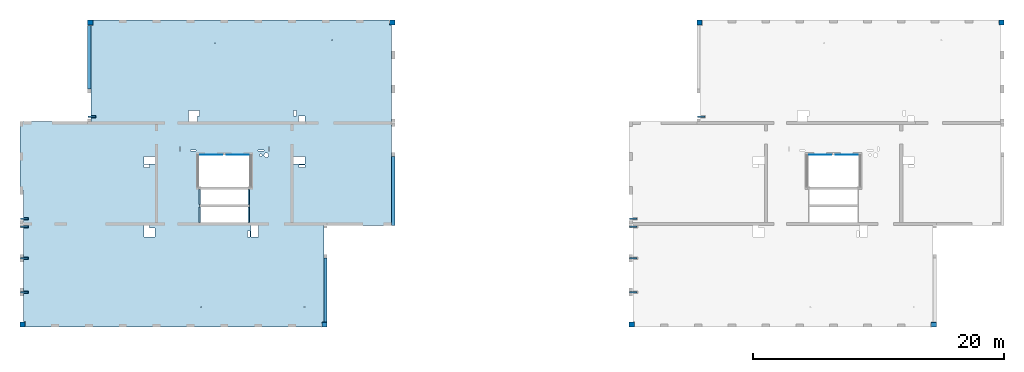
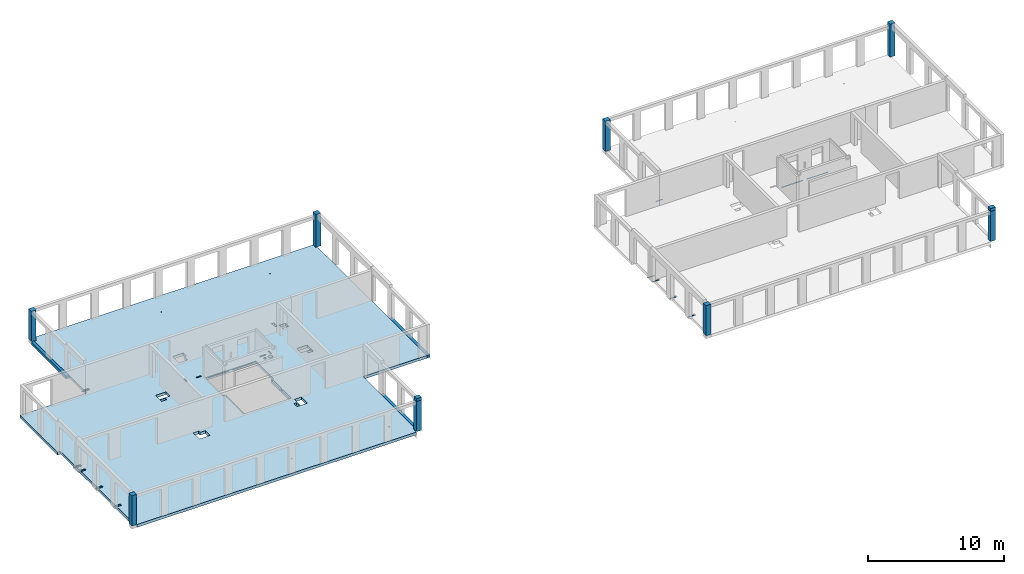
# One storey, part 1 of 11: 14 beams, 10 columns, 4 slabs, 34 openings.
"""IFC2X3 building model written with IfcOpenShell, lengths in millimetres."""

from ifc_helpers import new_model, entity, si_unit, converted_unit, derived_unit, direction, frame, frame_2d, origin, origin_2d_with_axis, place, context, subcontext, project, spatial, polyline, rectangle, circle, outline, extrude, source, transform, mapped, material, layer, layer_set, layer_usage, type_object, type_shapes, element, save


model = new_model("IFC2X3")

# Units and contexts
model_context = context("Model", 3, precision=0.01, world=origin(), true_north=direction((6.12303176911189e-17, 1.0)))
body_context = subcontext(model_context, "Body", "Model", "MODEL_VIEW")
ifc_project = project(units=[si_unit("LENGTHUNIT", "METRE", prefix="MILLI"), si_unit("AREAUNIT", "SQUARE_METRE"), si_unit("VOLUMEUNIT", "CUBIC_METRE"), converted_unit("PLANEANGLEUNIT", "DEGREE", entity("IfcRatioMeasure", 0.0174532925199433), si_unit("PLANEANGLEUNIT", "RADIAN"), dimensions=[0, 0, 0, 0, 0, 0, 0]), si_unit("MASSUNIT", "GRAM", prefix="KILO"), derived_unit("MASSDENSITYUNIT", [(si_unit("MASSUNIT", "GRAM", prefix="KILO"), 1), (si_unit("LENGTHUNIT", "METRE"), -3)]), si_unit("TIMEUNIT", "SECOND"), si_unit("FREQUENCYUNIT", "HERTZ"), si_unit("THERMODYNAMICTEMPERATUREUNIT", "DEGREE_CELSIUS"), derived_unit("THERMALTRANSMITTANCEUNIT", [(si_unit("MASSUNIT", "GRAM", prefix="KILO"), 1), (si_unit("THERMODYNAMICTEMPERATUREUNIT", "KELVIN"), -1), (si_unit("TIMEUNIT", "SECOND"), -3)]), derived_unit("VOLUMETRICFLOWRATEUNIT", [(si_unit("LENGTHUNIT", "METRE"), 3), (si_unit("TIMEUNIT", "SECOND"), -1)]), si_unit("ELECTRICCURRENTUNIT", "AMPERE"), si_unit("ELECTRICVOLTAGEUNIT", "VOLT"), si_unit("POWERUNIT", "WATT"), si_unit("FORCEUNIT", "NEWTON", prefix="KILO"), si_unit("ILLUMINANCEUNIT", "LUX"), si_unit("LUMINOUSFLUXUNIT", "LUMEN"), si_unit("LUMINOUSINTENSITYUNIT", "CANDELA"), derived_unit("USERDEFINED", [(si_unit("MASSUNIT", "GRAM", prefix="KILO"), -1), (si_unit("LENGTHUNIT", "METRE"), -2), (si_unit("TIMEUNIT", "SECOND"), 3), (si_unit("LUMINOUSFLUXUNIT", "LUMEN"), 1)]), derived_unit("LINEARVELOCITYUNIT", [(si_unit("LENGTHUNIT", "METRE"), 1), (si_unit("TIMEUNIT", "SECOND"), -1)]), si_unit("PRESSUREUNIT", "PASCAL"), derived_unit("USERDEFINED", [(si_unit("LENGTHUNIT", "METRE"), -2), (si_unit("MASSUNIT", "GRAM", prefix="KILO"), 1), (si_unit("TIMEUNIT", "SECOND"), -2)])], contexts=[model_context])

# Site, building, storey
site_placement = place(None, origin())
site = spatial("IfcSite", under=ifc_project, at=site_placement, Name="Default", CompositionType="ELEMENT")
building_placement = place(site_placement, origin())
building = spatial("IfcBuilding", under=site, at=building_placement, Name="niet gebruiken", CompositionType="ELEMENT")
storey_placement = place(building_placement, frame((0.0, 0.0, 57150.0)))
storey = spatial("IfcBuildingStorey", under=building, at=storey_placement, Name="19 negentiende verdieping", CompositionType="ELEMENT", Elevation=57150.0)

# Columns
ifc_material_1 = material(Name="NLRS_f2_beton prefab")
column_type_1 = type_object("IfcColumnType", Name="410x410", PredefinedType="COLUMN", material=ifc_material_1)
shared_shape_1 = source(origin(), body_context, "Body", "SweptSolid", [
    extrude(rectangle(XDim=410.0, YDim=410.0, at=origin_2d_with_axis()), frame((0.0, 0.0, 57080.0), z_axis=(0.0, 0.0, 1.0), x_axis=(0.0, -1.0, 0.0)), (0.0, 0.0, 1.0), 2700.0),
])
type_shapes(column_type_1, [shared_shape_1])
for number, where, name in (
    (1, (99795.0, 28961.0, -57150.0), "NLRS_28. kolom vierkant_gen:410x410"),
    (2, (81105.0, 53051.0, -57150.0), "NLRS_28. kolom vierkant_gen:410x410"),
    (3, (51195.0, 28961.0, -57150.0), "NLRS_28. kolom vierkant_gen:410x410"),
    (4, (32505.0, 53051.0, -57150.0), "NLRS_28. kolom vierkant_gen:410x410"),
):
    element("IfcColumn", number, at=place(storey_placement, frame(where)), inside=storey, type_object=column_type_1, material=ifc_material_1, Name=name, ObjectType="410x410", context=body_context, shape_type="MappedRepresentation", body=[
        mapped(shared_shape_1, transform((0.0, 0.0, 0.0), scale=1.0)),
    ])
column_type_2 = type_object("IfcColumnType", Name="410x410", PredefinedType="COLUMN", material=ifc_material_1)
shared_shape_2 = source(origin(), body_context, "Body", "SweptSolid", [
    extrude(rectangle(XDim=410.0, YDim=410.0, at=origin_2d_with_axis()), frame((0.0, 0.0, 57080.0), z_axis=(0.0, 0.0, 1.0), x_axis=(0.0, -1.0, 0.0)), (0.0, 0.0, 1.0), 2700.0),
])
type_shapes(column_type_2, [shared_shape_2])
for number, where, z_axis, x_axis, name in (
    (5, (75705.0, 28961.0, -57150.0), (0.0, 0.0, 1.0), (0.0, 1.0, 0.0), "NLRS_28. kolom vierkant_gen1:410x410"),
    (6, (27105.0, 28961.0, -57150.0), (0.0, 0.0, 1.0), (0.0, 1.0, 0.0), "NLRS_28. kolom vierkant_gen1:410x410"),
):
    element("IfcColumn", number, at=place(storey_placement, frame(where, z_axis=z_axis, x_axis=x_axis)), inside=storey, type_object=column_type_2, material=ifc_material_1, Name=name, ObjectType="410x410", context=body_context, shape_type="MappedRepresentation", body=[
        mapped(shared_shape_2, transform((0.0, 0.0, 0.0), scale=1.0)),
    ])
column_type_3 = type_object("IfcColumnType", Name="410x410", PredefinedType="COLUMN", material=ifc_material_1)
shared_shape_3 = source(origin(), body_context, "Body", "SweptSolid", [
    extrude(rectangle(XDim=410.000000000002, YDim=409.999999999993, at=origin_2d_with_axis()), frame((105195.0, 53051.0, 57080.0), z_axis=(0.0, 0.0, 1.0), x_axis=(0.0, -1.0, 0.0)), (0.0, 0.0, 1.0), 2950.00000000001),
])
type_shapes(column_type_3, [shared_shape_3])
column_1_placement = place(storey_placement, frame((0.0, 0.0, -57150.0)))
element("IfcColumn", 7, at=column_1_placement, inside=storey, type_object=column_type_3, material=ifc_material_1, Name="NLRS_28. kolom vierkant_gen:410x410", ObjectType="410x410", context=body_context, shape_type="MappedRepresentation", body=[
    mapped(shared_shape_3, transform((0.0, 0.0, 0.0), scale=1.0)),
])
column_type_4 = type_object("IfcColumnType", Name="410x410", PredefinedType="COLUMN", material=ifc_material_1)
shared_shape_4 = source(origin(), body_context, "Body", "SweptSolid", [
    extrude(rectangle(XDim=410.000000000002, YDim=410.000000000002, at=origin_2d_with_axis()), frame((56595.0, 53051.0, 57080.0), z_axis=(0.0, 0.0, 1.0), x_axis=(0.0, -1.0, 0.0)), (0.0, 0.0, 1.0), 2950.00000000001),
])
type_shapes(column_type_4, [shared_shape_4])
column_2_placement = place(storey_placement, frame((0.0, 0.0, -57150.0)))
element("IfcColumn", 8, at=column_2_placement, inside=storey, type_object=column_type_4, material=ifc_material_1, Name="NLRS_28. kolom vierkant_gen:410x410", ObjectType="410x410", context=body_context, shape_type="MappedRepresentation", body=[
    mapped(shared_shape_4, transform((0.0, 0.0, 0.0), scale=1.0)),
])
column_type_5 = type_object("IfcColumnType", Name="410x360", PredefinedType="COLUMN", material=ifc_material_1)
shared_shape_5 = source(origin(), body_context, "Body", "SweptSolid", [
    extrude(rectangle(XDim=360.0, YDim=409.999999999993, at=origin_2d_with_axis()), frame((99795.0, 28936.0, 59780.0), z_axis=(0.0, 0.0, 1.0), x_axis=(0.0, -1.0, 0.0)), (0.0, 0.0, 1.0), 250.000000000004),
])
type_shapes(column_type_5, [shared_shape_5])
column_3_placement = place(storey_placement, frame((0.0, 0.0, -57150.0)))
element("IfcColumn", 9, at=column_3_placement, inside=storey, type_object=column_type_5, material=ifc_material_1, Name="NLRS_28. kolom vierkant_gen:410x360", ObjectType="410x360", context=body_context, shape_type="MappedRepresentation", body=[
    mapped(shared_shape_5, transform((0.0, 0.0, 0.0), scale=1.0)),
])
column_type_6 = type_object("IfcColumnType", Name="410x360", PredefinedType="COLUMN", material=ifc_material_1)
shared_shape_6 = source(origin(), body_context, "Body", "SweptSolid", [
    extrude(rectangle(XDim=360.0, YDim=410.000000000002, at=origin_2d_with_axis()), frame((51195.0, 28936.0, 59780.0), z_axis=(0.0, 0.0, 1.0), x_axis=(0.0, -1.0, 0.0)), (0.0, 0.0, 1.0), 250.000000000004),
])
type_shapes(column_type_6, [shared_shape_6])
column_4_placement = place(storey_placement, frame((0.0, 0.0, -57150.0)))
element("IfcColumn", 10, at=column_4_placement, inside=storey, type_object=column_type_6, material=ifc_material_1, Name="NLRS_28. kolom vierkant_gen:410x360", ObjectType="410x360", context=body_context, shape_type="MappedRepresentation", body=[
    mapped(shared_shape_6, transform((0.0, 0.0, 0.0), scale=1.0)),
])

# Beams
ifc_material_2 = material(Name="NLRS_h2_staal")
beam_type_1 = type_object("IfcBeamType", Name="ligger stripstaal RECT_120x10", PredefinedType="BEAM", material=ifc_material_2)
shared_shape_7 = source(origin(), body_context, "Body", "SweptSolid", [
    extrude(rectangle(XDim=599.999999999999, YDim=120.0, at=origin_2d_with_axis()), frame((0.0, 0.0, -5.0), z_axis=(0.0, 0.0, 1.0), x_axis=(-1.0, 0.0, 0.0)), (0.0, 0.0, 1.0), 9.99999999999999),
    extrude(rectangle(XDim=599.999999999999, YDim=120.0, at=origin_2d_with_axis()), frame((0.0, 0.0, -5.0), z_axis=(0.0, 0.0, 1.0), x_axis=(-1.0, 0.0, 0.0)), (0.0, 0.0, 1.0), 9.99999999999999),
])
type_shapes(beam_type_1, [shared_shape_7])
for number, where, name in (
    (11, (75835.0, 31556.0, -115.0), "NLRS_28.11_SF_WPB_stalen ligger stripstaal_gen:ligger stripstaal RECT_120x10"),
    (12, (75835.0, 34256.0, -115.0), "NLRS_28.11_SF_WPB_stalen ligger stripstaal_gen:ligger stripstaal RECT_120x10"),
    (13, (75835.0, 36766.0, -115.0), "NLRS_28.11_SF_WPB_stalen ligger stripstaal_gen:ligger stripstaal RECT_120x10"),
    (14, (27235.0, 31556.0, -115.0), "NLRS_28.11_SF_WPB_stalen ligger stripstaal_gen:ligger stripstaal RECT_120x10"),
    (15, (27235.0, 34256.0, -115.0), "NLRS_28.11_SF_WPB_stalen ligger stripstaal_gen:ligger stripstaal RECT_120x10"),
    (16, (27235.0, 36766.0, -115.0), "NLRS_28.11_SF_WPB_stalen ligger stripstaal_gen:ligger stripstaal RECT_120x10"),
):
    element("IfcBeam", number, at=place(storey_placement, frame(where)), inside=storey, type_object=beam_type_1, material=ifc_material_2, Name=name, ObjectType="ligger stripstaal RECT_120x10", context=body_context, shape_type="MappedRepresentation", body=[
        mapped(shared_shape_7, transform((0.0, 0.0, 0.0), scale=1.0)),
    ])
beam_type_2 = type_object("IfcBeamType", Name="NLRS_28.11_SF_WPB_Halfen 40-22_gen:ligger stripstaal RECT_100x10", PredefinedType="BEAM")
beam_1_placement = place(storey_placement, frame((89865.0, 42496.0, -160.0)))
element("IfcBeam", 17, at=beam_1_placement, inside=storey, type_object=beam_type_2, material=ifc_material_2, Name="NLRS_28.11_SF_WPB_Halfen 40-22_gen:ligger stripstaal RECT_100x10", ObjectType="NLRS_28.11_SF_WPB_Halfen 40-22_gen:ligger stripstaal RECT_100x10", context=body_context, shape_type="SweptSolid", body=[
    extrude(outline(polyline([(-20.0, -8.0), (-9.0, -8.0), (-9.0, 0.0), (-11.0, 0.0), (-11.0, -6.0), (-18.0, -6.0), (-18.0, 13.0), (18.0, 13.0), (18.0, -6.0), (11.0, -6.0), (11.0, 0.0), (9.0, 0.0), (9.0, -8.0), (20.0, -8.0), (20.0, 15.0), (-20.0, 15.0), (-20.0, -8.0)])), frame((0.0, 8.0, 20.0), z_axis=(1.0, 0.0, 0.0), x_axis=(0.0, 0.0, -1.0)), (0.0, 0.0, 1.0), 1760.00000000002),
])
beam_2_placement = place(storey_placement, frame((91975.0, 42496.0, -160.0)))
element("IfcBeam", 18, at=beam_2_placement, inside=storey, type_object=beam_type_2, material=ifc_material_2, Name="NLRS_28.11_SF_WPB_Halfen 40-22_gen:ligger stripstaal RECT_100x10", ObjectType="NLRS_28.11_SF_WPB_Halfen 40-22_gen:ligger stripstaal RECT_100x10", context=body_context, shape_type="SweptSolid", body=[
    extrude(outline(polyline([(-20.0, -8.0), (-9.0, -8.0), (-9.0, 0.0), (-11.0, 0.0), (-11.0, -6.0), (-18.0, -6.0), (-18.0, 13.0), (18.0, 13.0), (18.0, -6.0), (11.0, -6.0), (11.0, 0.0), (9.0, 0.0), (9.0, -8.0), (20.0, -8.0), (20.0, 15.0), (-20.0, 15.0), (-20.0, -8.0)])), frame((0.0, 8.0, 20.0), z_axis=(1.0, 0.0, 0.0), x_axis=(0.0, 0.0, -1.0)), (0.0, 0.0, 1.0), 1760.0),
])
for number, where, name in (
    (19, (41264.9998491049, 42496.0, -160.0), "NLRS_28.11_SF_WPB_Halfen 40-22_gen:ligger stripstaal RECT_100x10"),
    (20, (43374.999849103, 42496.0, -160.0), "NLRS_28.11_SF_WPB_Halfen 40-22_gen:ligger stripstaal RECT_100x10"),
):
    element("IfcBeam", number, at=place(storey_placement, frame(where)), inside=storey, type_object=beam_type_2, material=ifc_material_2, Name=name, ObjectType="NLRS_28.11_SF_WPB_Halfen 40-22_gen:ligger stripstaal RECT_100x10", context=body_context, shape_type="SweptSolid", body=[
        extrude(outline(polyline([(-20.0, -8.0), (-9.0, -8.0), (-9.0, 0.0), (-11.0, 0.0), (-11.0, -6.0), (-18.0, -6.0), (-18.0, 13.0), (18.0, 13.0), (18.0, -6.0), (11.0, -6.0), (11.0, 0.0), (9.0, 0.0), (9.0, -8.0), (20.0, -8.0), (20.0, 15.0), (-20.0, 15.0), (-20.0, -8.0)])), frame((0.0, 8.0, 20.0), z_axis=(1.0, 0.0, 0.0), x_axis=(0.0, 0.0, -1.0)), (0.0, 0.0, 1.0), 1760.00000000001),
    ])
beam_type_3 = type_object("IfcBeamType", Name="ligger stripstaal RECT_120x10", PredefinedType="BEAM", material=ifc_material_2)
shared_shape_8 = source(origin(), body_context, "Body", "SweptSolid", [
    extrude(rectangle(XDim=120.0, YDim=600.000000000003, at=origin_2d_with_axis()), frame((0.0, 0.0, -5.0), z_axis=(0.0, 0.0, 1.0), x_axis=(0.0, 1.0, 0.0)), (0.0, 0.0, 1.0), 9.99999999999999),
    extrude(rectangle(XDim=120.0, YDim=600.000000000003, at=origin_2d_with_axis()), frame((0.0, 0.0, -5.0), z_axis=(0.0, 0.0, 1.0), x_axis=(0.0, 1.0, 0.0)), (0.0, 0.0, 1.0), 9.99999999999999),
])
type_shapes(beam_type_3, [shared_shape_8])
for number, where, name in (
    (21, (75835.0, 37386.0, -115.0), "NLRS_28.11_SF_WPB_stalen ligger stripstaal_gen:ligger stripstaal RECT_120x10"),
    (22, (81235.0, 45521.0, -115.0), "NLRS_28.11_SF_WPB_stalen ligger stripstaal_gen:ligger stripstaal RECT_120x10"),
    (23, (27235.0, 37386.0, -115.0), "NLRS_28.11_SF_WPB_stalen ligger stripstaal_gen:ligger stripstaal RECT_120x10"),
    (24, (32635.0, 45521.0, -115.0), "NLRS_28.11_SF_WPB_stalen ligger stripstaal_gen:ligger stripstaal RECT_120x10"),
):
    element("IfcBeam", number, at=place(storey_placement, frame(where)), inside=storey, type_object=beam_type_3, material=ifc_material_2, Name=name, ObjectType="ligger stripstaal RECT_120x10", context=body_context, shape_type="MappedRepresentation", body=[
        mapped(shared_shape_8, transform((0.0, 0.0, 0.0), scale=1.0)),
    ])

# Slab, openings
ifc_material_3 = material(Name="NLRS_f2_beton ihwg")
ifc_layer = layer(ifc_material_3, 250.0)
ifc_layer_set = layer_set([ifc_layer], Name="Floor:NLRS_23.21_FL_beton ihwg d=250_gen")
ifc_layer_usage_1 = layer_usage(ifc_layer_set, "AXIS3", "POSITIVE", 0.0)
slab_1_placement = place(storey_placement, frame((26900.0, 28756.0, -340.0)))
slab_1 = element("IfcSlab", 25, at=slab_1_placement, inside=storey, material=ifc_layer_usage_1, Name="Floor:NLRS_23.21_FL_beton ihwg d=250_gen", ObjectType="Floor:NLRS_23.21_FL_beton ihwg d=250_gen", PredefinedType="FLOOR", context=body_context, shape_type="SweptSolid", body=[
    extrude(outline(polyline([(8995.0, 12250.0), (-14665.0, 12250.0), (-14665.0, 11840.0), (-14805.0, 11840.0), (-14805.0, 4060.0), (-14825.0, 4060.0), (-14825.0, -4150.0), (-9425.0, -4150.0), (-9425.0, -11890.0), (-9265.0, -11890.0), (-9265.0, -12250.0), (14395.0, -12250.0), (14395.0, -11820.0), (14535.0, -11820.0), (14535.0, -4040.0), (14555.0, -4040.0), (14555.0, -1350.0), (14825.0, -1350.0), (14825.0, 4150.0), (9155.0, 4150.0), (9155.0, 6750.0), (9425.0, 6750.0), (9425.0, 11820.0), (8995.0, 11820.0), (8995.0, 12250.0)])), frame((14825.0, 12250.0, 250.0), z_axis=(0.0, 0.0, -1.0), x_axis=(-1.0, 0.0, 0.0)), (0.0, 0.0, 1.0), 250.000000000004),
])
opening_1_placement = place(storey_placement, frame((26900.0, 28756.0, -340.0)))
element("IfcOpeningElement", 26, at=opening_1_placement, cuts=slab_1, ObjectType="Opening", context=body_context, shape_type="SweptSolid", body=[
    extrude(circle(Radius=37.5, at=frame_2d((-7875.0, -10650.0), x_axis=(1.0, 0.0))), frame((14825.0, 12250.0, 250.0), z_axis=(0.0, 0.0, -1.0), x_axis=(-1.0, 0.0, 0.0)), (0.0, 0.0, 1.0), 250.000000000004),
])
opening_2_placement = place(storey_placement, frame((26900.0, 28756.0, -340.0)))
element("IfcOpeningElement", 27, at=opening_2_placement, cuts=slab_1, ObjectType="Opening", context=body_context, shape_type="SweptSolid", body=[
    extrude(circle(Radius=37.5, at=frame_2d((-10075.0, 10650.0), x_axis=(1.0, 0.0))), frame((14825.0, 12250.0, 250.0), z_axis=(0.0, 0.0, -1.0), x_axis=(-1.0, 0.0, 0.0)), (0.0, 0.0, 1.0), 250.000000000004),
])
opening_3_placement = place(storey_placement, frame((26900.0, 28756.0, -340.0)))
element("IfcOpeningElement", 28, at=opening_3_placement, cuts=slab_1, ObjectType="Opening", context=body_context, shape_type="SweptSolid", body=[
    extrude(circle(Radius=37.5, at=frame_2d((-725.0, 10400.0), x_axis=(1.0, 0.0))), frame((14825.0, 12250.0, 250.0), z_axis=(0.0, 0.0, -1.0), x_axis=(-1.0, 0.0, 0.0)), (0.0, 0.0, 1.0), 250.000000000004),
])
opening_4_placement = place(storey_placement, frame((26900.0, 28756.0, -340.0)))
element("IfcOpeningElement", 29, at=opening_4_placement, cuts=slab_1, ObjectType="Opening", context=body_context, shape_type="SweptSolid", body=[
    extrude(circle(Radius=37.5, at=frame_2d((375.0, -10650.0), x_axis=(1.0, 0.0))), frame((14825.0, 12250.0, 250.0), z_axis=(0.0, 0.0, -1.0), x_axis=(-1.0, 0.0, 0.0)), (0.0, 0.0, 1.0), 250.000000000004),
])
opening_5_placement = place(slab_1_placement, origin())
element("IfcOpeningElement", 30, at=opening_5_placement, cuts=slab_1, ObjectType="Opening", context=body_context, shape_type="SweptSolid", body=[
    extrude(rectangle(XDim=110.000000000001, YDim=1220.0, at=origin_2d_with_axis()), frame((14344.9999671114, 10380.0, 210.0)), (0.0, 0.0, 1.0), 39.9999999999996),
])
opening_6_placement = place(slab_1_placement, origin())
element("IfcOpeningElement", 31, at=opening_6_placement, cuts=slab_1, ObjectType="Opening", context=body_context, shape_type="SweptSolid", body=[
    extrude(rectangle(XDim=110.000000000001, YDim=1220.0, at=origin_2d_with_axis()), frame((18254.9997832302, 10380.0, 210.0)), (0.0, 0.0, 1.0), 39.9999999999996),
])
opening_7_placement = place(slab_1_placement, origin())
element("IfcOpeningElement", 32, at=opening_7_placement, cuts=slab_1, ObjectType="Opening", context=body_context, shape_type="SweptSolid", body=[
    extrude(rectangle(XDim=110.000000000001, YDim=1220.0, at=origin_2d_with_axis()), frame((18255.0, 8960.0, 210.0)), (0.0, 0.0, 1.0), 39.9999999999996),
])
opening_8_placement = place(slab_1_placement, origin())
element("IfcOpeningElement", 33, at=opening_8_placement, cuts=slab_1, ObjectType="Opening", context=body_context, shape_type="SweptSolid", body=[
    extrude(rectangle(XDim=110.000000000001, YDim=1220.0, at=origin_2d_with_axis()), frame((14344.9997832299, 8960.0, 210.0)), (0.0, 0.0, 1.0), 39.9999999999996),
])
opening_9_placement = place(slab_1_placement, origin())
element("IfcOpeningElement", 34, at=opening_9_placement, cuts=slab_1, ObjectType="Opening", context=body_context, shape_type="SweptSolid", body=[
    extrude(rectangle(XDim=400.000000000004, YDim=199.999999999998, at=origin_2d_with_axis()), frame((5870.0, 16765.0, 220.0)), (0.0, 0.0, 1.0), 30.0000000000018),
])
opening_10_placement = place(slab_1_placement, origin())
element("IfcOpeningElement", 35, at=opening_10_placement, cuts=slab_1, ObjectType="Opening", context=body_context, shape_type="SweptSolid", body=[
    extrude(rectangle(XDim=400.000000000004, YDim=200.000000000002, at=origin_2d_with_axis()), frame((470.0, 8630.0, 220.0)), (0.0, 0.0, 1.0), 30.0000000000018),
])
opening_11_placement = place(slab_1_placement, origin())
element("IfcOpeningElement", 36, at=opening_11_placement, cuts=slab_1, ObjectType="Opening", context=body_context, shape_type="SweptSolid", body=[
    extrude(rectangle(XDim=200.000000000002, YDim=400.000000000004, at=origin_2d_with_axis()), frame((490.0, 8000.0, 220.0), z_axis=(0.0, 0.0, 1.0), x_axis=(0.0, -1.0, 0.0)), (0.0, 0.0, 1.0), 30.0000000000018),
])
opening_12_placement = place(slab_1_placement, origin())
element("IfcOpeningElement", 37, at=opening_12_placement, cuts=slab_1, ObjectType="Opening", context=body_context, shape_type="SweptSolid", body=[
    extrude(rectangle(XDim=200.000000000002, YDim=400.000000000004, at=origin_2d_with_axis()), frame((490.0, 5500.0, 220.0), z_axis=(0.0, 0.0, 1.0), x_axis=(0.0, -1.0, 0.0)), (0.0, 0.0, 1.0), 30.0000000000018),
])
opening_13_placement = place(slab_1_placement, origin())
element("IfcOpeningElement", 38, at=opening_13_placement, cuts=slab_1, ObjectType="Opening", context=body_context, shape_type="SweptSolid", body=[
    extrude(rectangle(XDim=200.000000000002, YDim=400.000000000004, at=origin_2d_with_axis()), frame((490.0, 2800.0, 220.0), z_axis=(0.0, 0.0, 1.0), x_axis=(0.0, -1.0, 0.0)), (0.0, 0.0, 1.0), 30.0000000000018),
])
opening_14_placement = place(slab_1_placement, origin())
element("IfcOpeningElement", 39, at=opening_14_placement, cuts=slab_1, ObjectType="Opening", context=body_context, shape_type="SweptSolid", body=[
    extrude(rectangle(XDim=900.000000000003, YDim=700.000000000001, at=origin_2d_with_axis()), frame((10325.0, 7550.0, 0.0), z_axis=(0.0, 0.0, 1.0), x_axis=(-1.0, 0.0, 0.0)), (0.0, 0.0, 1.0), 250.000000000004),
])
opening_15_placement = place(slab_1_placement, origin())
element("IfcOpeningElement", 40, at=opening_15_placement, cuts=slab_1, ObjectType="Opening", context=body_context, shape_type="SweptSolid", body=[
    extrude(rectangle(XDim=200.000000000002, YDim=450.000000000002, at=origin_2d_with_axis()), frame((10100.0, 8000.0, 0.0), z_axis=(0.0, 0.0, 1.0), x_axis=(0.0, -1.0, 0.0)), (0.0, 0.0, 1.0), 250.000000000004),
])
opening_16_placement = place(slab_1_placement, origin())
element("IfcOpeningElement", 41, at=opening_16_placement, cuts=slab_1, ObjectType="Opening", context=body_context, shape_type="SweptSolid", body=[
    extrude(rectangle(XDim=900.000000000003, YDim=729.999999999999, at=origin_2d_with_axis()), frame((13800.0, 16850.0, 0.0), z_axis=(0.0, 0.0, 1.0), x_axis=(0.0, 1.0, 0.0)), (0.0, 0.0, 1.0), 250.000000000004),
])
opening_17_placement = place(slab_1_placement, origin())
element("IfcOpeningElement", 42, at=opening_17_placement, cuts=slab_1, ObjectType="Opening", context=body_context, shape_type="SweptSolid", body=[
    extrude(rectangle(XDim=170.000000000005, YDim=450.000000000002, at=origin_2d_with_axis()), frame((14250.0, 17075.0, 0.0), z_axis=(0.0, 0.0, 1.0), x_axis=(-1.0, 0.0, 0.0)), (0.0, 0.0, 1.0), 250.000000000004),
])
opening_18_placement = place(slab_1_placement, origin())
element("IfcOpeningElement", 43, at=opening_18_placement, cuts=slab_1, ObjectType="Opening", context=body_context, shape_type="SweptSolid", body=[
    extrude(rectangle(XDim=900.000000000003, YDim=600.000000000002, at=origin_2d_with_axis()), frame((10325.0, 13330.0, 0.0), z_axis=(0.0, 0.0, 1.0), x_axis=(-1.0, 0.0, 0.0)), (0.0, 0.0, 1.0), 250.000000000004),
])
opening_19_placement = place(slab_1_placement, origin())
element("IfcOpeningElement", 44, at=opening_19_placement, cuts=slab_1, ObjectType="Opening", context=body_context, shape_type="SweptSolid", body=[
    extrude(rectangle(XDim=450.000000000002, YDim=499.999999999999, at=origin_2d_with_axis()), frame((22475.0, 16625.0, 0.0), z_axis=(0.0, 0.0, 1.0), x_axis=(0.0, 1.0, 0.0)), (0.0, 0.0, 1.0), 250.000000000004),
])
opening_20_placement = place(slab_1_placement, origin())
element("IfcOpeningElement", 45, at=opening_20_placement, cuts=slab_1, ObjectType="Opening", context=body_context, shape_type="SweptSolid", body=[
    extrude(rectangle(XDim=899.999999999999, YDim=600.000000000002, at=origin_2d_with_axis()), frame((18729.9818996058, 7650.0, 0.0), z_axis=(0.0, 0.0, 1.0), x_axis=(0.0, 1.0, 0.0)), (0.0, 0.0, 1.0), 250.000000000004),
])
opening_21_placement = place(slab_1_placement, origin())
element("IfcOpeningElement", 46, at=opening_21_placement, cuts=slab_1, ObjectType="Opening", context=body_context, shape_type="SweptSolid", body=[
    extrude(rectangle(XDim=900.000000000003, YDim=600.000000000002, at=origin_2d_with_axis()), frame((22275.0, 13330.0, 0.0), z_axis=(0.0, 0.0, 1.0), x_axis=(-1.0, 0.0, 0.0)), (0.0, 0.0, 1.0), 250.000000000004),
])
opening_22_placement = place(slab_1_placement, origin())
element("IfcOpeningElement", 47, at=opening_22_placement, cuts=slab_1, ObjectType="Opening", context=body_context, shape_type="SweptSolid", body=[
    extrude(rectangle(XDim=1760.00000000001, YDim=23.0000000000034, at=origin_2d_with_axis()), frame((15244.9998491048, 13751.4999999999, 180.0)), (0.0, 0.0, 1.0), 40.0000000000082),
])
opening_23_placement = place(slab_1_placement, origin())
element("IfcOpeningElement", 48, at=opening_23_placement, cuts=slab_1, ObjectType="Opening", context=body_context, shape_type="SweptSolid", body=[
    extrude(rectangle(XDim=1760.00000000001, YDim=23.0000000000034, at=origin_2d_with_axis()), frame((17354.999849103, 13751.4999999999, 180.0)), (0.0, 0.0, 1.0), 40.0000000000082),
])
opening_24_placement = place(slab_1_placement, origin())
element("IfcOpeningElement", 49, at=opening_24_placement, cuts=slab_1, ObjectType="Opening", context=body_context, shape_type="SweptSolid", body=[
    extrude(rectangle(XDim=100.000000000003, YDim=490.000000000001, at=origin_2d_with_axis()), frame((19225.0, 14090.0, 0.0), z_axis=(0.0, 0.0, 1.0), x_axis=(0.0, -1.0, 0.0)), (0.0, 0.0, 1.0), 250.000000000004),
])
opening_25_placement = place(slab_1_placement, origin())
element("IfcOpeningElement", 50, at=opening_25_placement, cuts=slab_1, ObjectType="Opening", context=body_context, shape_type="SweptSolid", body=[
    extrude(rectangle(XDim=100.000000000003, YDim=340.000000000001, at=origin_2d_with_axis()), frame((19865.0, 14210.0, 0.0), z_axis=(0.0, 0.0, 1.0), x_axis=(-1.0, 0.0, 0.0)), (0.0, 0.0, 1.0), 250.000000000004),
])
opening_26_placement = place(slab_1_placement, origin())
element("IfcOpeningElement", 51, at=opening_26_placement, cuts=slab_1, ObjectType="Opening", context=body_context, shape_type="SweptSolid", body=[
    extrude(rectangle(XDim=100.000000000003, YDim=340.000000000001, at=origin_2d_with_axis()), frame((12755.0, 14210.0, 0.0), z_axis=(0.0, 0.0, 1.0), x_axis=(-1.0, 0.0, 0.0)), (0.0, 0.0, 1.0), 250.000000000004),
])
opening_27_placement = place(slab_1_placement, origin())
element("IfcOpeningElement", 52, at=opening_27_placement, cuts=slab_1, ObjectType="Opening", context=body_context, shape_type="SweptSolid", body=[
    extrude(rectangle(XDim=100.000000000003, YDim=440.000000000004, at=origin_2d_with_axis()), frame((13805.0, 14090.0, 0.0), z_axis=(0.0, 0.0, 1.0), x_axis=(0.0, -1.0, 0.0)), (0.0, 0.0, 1.0), 250.000000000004),
])
opening_28_placement = place(slab_1_placement, origin())
element("IfcOpeningElement", 53, at=opening_28_placement, cuts=slab_1, ObjectType="Opening", context=body_context, shape_type="SweptSolid", body=[
    extrude(rectangle(XDim=230.0, YDim=450.000000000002, at=origin_2d_with_axis()), frame((10100.0000865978, 12845.0002270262, 0.0), z_axis=(0.0, 0.0, 1.0), x_axis=(0.0, -1.0, 0.0)), (0.0, 0.0, 1.0), 250.000000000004),
])
opening_29_placement = place(slab_1_placement, origin())
element("IfcOpeningElement", 54, at=opening_29_placement, cuts=slab_1, ObjectType="Opening", context=body_context, shape_type="SweptSolid", body=[
    extrude(rectangle(XDim=220.000000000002, YDim=450.000000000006, at=origin_2d_with_axis()), frame((18240.0, 7425.0, 0.0)), (0.0, 0.0, 1.0), 250.000000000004),
])
opening_30_placement = place(slab_1_placement, origin())
element("IfcOpeningElement", 55, at=opening_30_placement, cuts=slab_1, ObjectType="Opening", context=body_context, shape_type="SweptSolid", body=[
    extrude(rectangle(XDim=220.000000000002, YDim=450.000000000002, at=origin_2d_with_axis()), frame((22500.0, 12840.0, 0.0), z_axis=(0.0, 0.0, 1.0), x_axis=(0.0, -1.0, 0.0)), (0.0, 0.0, 1.0), 250.000000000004),
])
opening_31_placement = place(slab_1_placement, origin())
element("IfcOpeningElement", 56, at=opening_31_placement, cuts=slab_1, ObjectType="Opening", context=body_context, shape_type="SweptSolid", body=[
    extrude(rectangle(XDim=220.000000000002, YDim=450.000000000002, at=origin_2d_with_axis()), frame((21935.0, 17075.0, 0.0), z_axis=(0.0, 0.0, 1.0), x_axis=(-1.0, 0.0, 0.0)), (0.0, 0.0, 1.0), 250.000000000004),
])
opening_32_placement = place(slab_1_placement, origin())
element("IfcOpeningElement", 57, at=opening_32_placement, cuts=slab_1, ObjectType="Opening", context=body_context, shape_type="SweptSolid", body=[
    extrude(circle(Radius=100.0, at=origin_2d_with_axis()), frame((19200.0, 13720.0, 0.0)), (0.0, 0.0, 1.0), 250.000000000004),
])
opening_33_placement = place(slab_1_placement, origin())
element("IfcOpeningElement", 58, at=opening_33_placement, cuts=slab_1, ObjectType="Opening", context=body_context, shape_type="SweptSolid", body=[
    extrude(circle(Radius=177.5, at=origin_2d_with_axis()), frame((19650.0, 13720.0, 0.0)), (0.0, 0.0, 1.0), 250.000000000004),
])
opening_34_placement = place(slab_1_placement, frame((16299.9999458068, 10378.7499999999, 250.0)))
element("IfcOpeningElement", 59, at=opening_34_placement, cuts=slab_1, Name="Floor:NLRS_23.21_FL_beton ihwg d=250_gen:2", ObjectType="Opening", context=body_context, shape_type="SweptSolid", body=[
    extrude(outline(polyline([(-1899.99983742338, -2028.75000000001), (1899.99994580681, -2028.75000000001), (1899.99994580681, -808.750000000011), (1999.99994580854, -808.750000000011), (1999.99994580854, -608.750000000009), (1899.99994580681, -608.750000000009), (1899.99994580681, 751.250000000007), (2134.99994580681, 751.250000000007), (2134.99994580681, 3361.24999999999), (-2135.00005419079, 3361.24999999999), (-2135.00005419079, 751.249999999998), (-1899.99983742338, 751.249999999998), (-1899.99983742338, -608.750000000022), (-2000.00005419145, -608.750000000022), (-2000.00005419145, -808.750000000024), (-1899.99983742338, -808.750000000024), (-1899.99983742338, -2028.75000000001)])), frame((0.0, 0.0, 0.0), z_axis=(0.0, 0.0, -1.0), x_axis=(-1.0, 0.0, 0.0)), (0.0, 0.0, 1.0), 250.000000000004),
])

# Slabs
ifc_layer_usage_2 = layer_usage(ifc_layer_set, "AXIS3", "POSITIVE", 0.0)
slab_2_placement = place(storey_placement, origin())
element("IfcSlab", 60, at=slab_2_placement, inside=storey, material=ifc_layer_usage_2, Name="Floor:NLRS_23.21_FL_beton ihwg d=250_gen", ObjectType="Floor:NLRS_23.21_FL_beton ihwg d=250_gen", PredefinedType="FLOOR", context=body_context, shape_type="SweptSolid", body=[
    extrude(rectangle(XDim=5069.99999999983, YDim=249.999999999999, at=frame_2d((4.32009983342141e-12, -2.16715534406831e-12), x_axis=(1.0, 0.0))), frame((32425.0, 50291.0, -90.0), z_axis=(0.0, 0.0, -1.0), x_axis=(0.0, 1.0, 0.0)), (0.0, 0.0, 1.0), 250.000000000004),
])
ifc_layer_usage_3 = layer_usage(ifc_layer_set, "AXIS3", "POSITIVE", 0.0)
slab_3_placement = place(storey_placement, origin())
element("IfcSlab", 61, at=slab_3_placement, inside=storey, material=ifc_layer_usage_3, Name="Floor:NLRS_23.21_FL_beton ihwg d=250_gen", ObjectType="Floor:NLRS_23.21_FL_beton ihwg d=250_gen", PredefinedType="FLOOR", context=body_context, shape_type="SweptSolid", body=[
    extrude(rectangle(XDim=5140.00000000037, YDim=250.000065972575, at=frame_2d((-2.27373675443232e-12, 0.0), x_axis=(1.0, 0.0))), frame((51275.0, 31686.0, -90.0), z_axis=(0.0, 0.0, -1.0), x_axis=(0.0, 1.0, 0.0)), (0.0, 0.0, 1.0), 250.000000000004),
])
ifc_layer_usage_4 = layer_usage(ifc_layer_set, "AXIS3", "POSITIVE", 0.0)
slab_4_placement = place(storey_placement, origin())
element("IfcSlab", 62, at=slab_4_placement, inside=storey, material=ifc_layer_usage_4, Name="Floor:NLRS_23.21_FL_beton ihwg d=250_gen", ObjectType="Floor:NLRS_23.21_FL_beton ihwg d=250_gen", PredefinedType="FLOOR", context=body_context, shape_type="SweptSolid", body=[
    extrude(rectangle(XDim=5500.00000000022, YDim=250.000000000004, at=frame_2d((0.0, 4.33431068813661e-12), x_axis=(1.0, 0.0))), frame((56675.0, 39606.0, -90.0), z_axis=(0.0, 0.0, -1.0), x_axis=(0.0, 1.0, 0.0)), (0.0, 0.0, 1.0), 250.000000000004),
])

save(model, "model.ifc")
